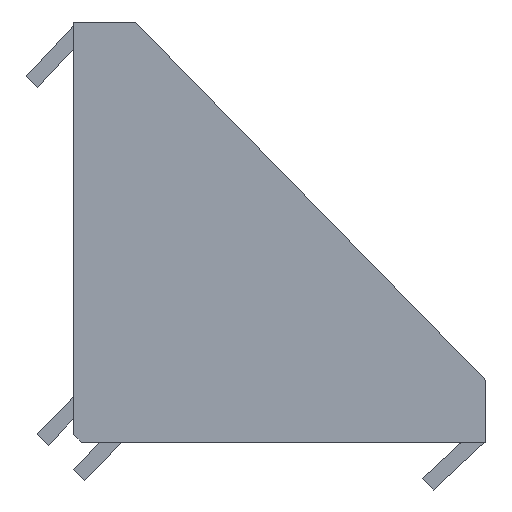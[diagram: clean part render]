
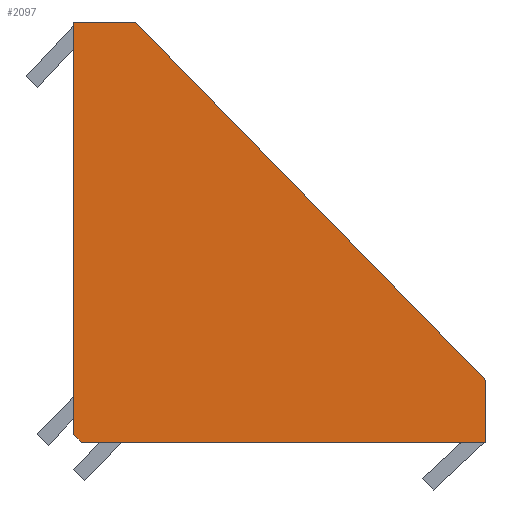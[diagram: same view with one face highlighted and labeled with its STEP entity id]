
A CAD part, left-side view. The second image highlights one B-rep face of the part: STEP entity #2097.
In plain terms, the highlighted planar face has unit normal (-1, 0, 0).
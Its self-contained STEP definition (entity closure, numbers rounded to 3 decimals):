
#61 = CARTESIAN_POINT ( 'NONE',  ( -34.65, -22.5, -18.248 ) ) ;
#181 = CARTESIAN_POINT ( 'NONE',  ( -34.65, 3.5, -22.233 ) ) ;
#267 = CARTESIAN_POINT ( 'NONE',  ( -34.65, -22.5, -22.233 ) ) ;
#371 = VERTEX_POINT ( 'NONE', #3192 ) ;
#381 = VERTEX_POINT ( 'NONE', #756 ) ;
#467 = CARTESIAN_POINT ( 'NONE',  ( -34.65, 4., -22.233 ) ) ;
#580 = LINE ( 'NONE', #3125, #1785 ) ;
#610 = LINE ( 'NONE', #467, #1132 ) ;
#669 = VECTOR ( 'NONE', #1097, 1000. ) ;
#726 = PLANE ( 'NONE',  #3258 ) ;
#756 = CARTESIAN_POINT ( 'NONE',  ( -34.65, 4., 4.767 ) ) ;
#835 = CARTESIAN_POINT ( 'NONE',  ( -34.65, 4., 4.767 ) ) ;
#949 = FACE_OUTER_BOUND ( 'NONE', #1389, .T. ) ;
#969 = VERTEX_POINT ( 'NONE', #181 ) ;
#975 = ORIENTED_EDGE ( 'NONE', *, *, #2985, .F. ) ;
#987 = CARTESIAN_POINT ( 'NONE',  ( -34.65, 4., -22.233 ) ) ;
#1097 = DIRECTION ( 'NONE',  ( 0., -1., 0. ) ) ;
#1132 = VECTOR ( 'NONE', #2025, 1000. ) ;
#1227 = VECTOR ( 'NONE', #2028, 1000. ) ;
#1239 = DIRECTION ( 'NONE',  ( 1., 0., 0. ) ) ;
#1389 = EDGE_LOOP ( 'NONE', ( #2008, #3219, #2706, #975, #1510, #1554 ) ) ;
#1423 = VERTEX_POINT ( 'NONE', #267 ) ;
#1510 = ORIENTED_EDGE ( 'NONE', *, *, #2217, .T. ) ;
#1532 = DIRECTION ( 'NONE',  ( 0., -0.707, -0.707 ) ) ;
#1554 = ORIENTED_EDGE ( 'NONE', *, *, #1943, .F. ) ;
#1762 = CARTESIAN_POINT ( 'NONE',  ( -34.65, 0., 4.767 ) ) ;
#1772 = VECTOR ( 'NONE', #1880, 1000. ) ;
#1785 = VECTOR ( 'NONE', #1532, 1000. ) ;
#1879 = VECTOR ( 'NONE', #2327, 1000. ) ;
#1880 = DIRECTION ( 'NONE',  ( 0., 0., -1. ) ) ;
#1943 = EDGE_CURVE ( 'NONE', #381, #3148, #2146, .T. ) ;
#2008 = ORIENTED_EDGE ( 'NONE', *, *, #3159, .F. ) ;
#2025 = DIRECTION ( 'NONE',  ( 0., -1., 0. ) ) ;
#2028 = DIRECTION ( 'NONE',  ( 0., 0.699, 0.715 ) ) ;
#2097 = ADVANCED_FACE ( 'NONE', ( #949 ), #726, .F. ) ;
#2146 = LINE ( 'NONE', #835, #669 ) ;
#2217 = EDGE_CURVE ( 'NONE', #2414, #3148, #3236, .T. ) ;
#2327 = DIRECTION ( 'NONE',  ( 0., 0., 1. ) ) ;
#2414 = VERTEX_POINT ( 'NONE', #2909 ) ;
#2477 = LINE ( 'NONE', #61, #1772 ) ;
#2706 = ORIENTED_EDGE ( 'NONE', *, *, #2763, .T. ) ;
#2763 = EDGE_CURVE ( 'NONE', #969, #1423, #610, .T. ) ;
#2839 = CARTESIAN_POINT ( 'NONE',  ( -34.65, 0., 4.767 ) ) ;
#2909 = CARTESIAN_POINT ( 'NONE',  ( -34.65, -22.5, -18.248 ) ) ;
#2985 = EDGE_CURVE ( 'NONE', #2414, #1423, #2477, .T. ) ;
#3072 = DIRECTION ( 'NONE',  ( 0., 0., -1. ) ) ;
#3115 = CARTESIAN_POINT ( 'NONE',  ( -34.65, 4., -22.233 ) ) ;
#3125 = CARTESIAN_POINT ( 'NONE',  ( -34.65, 4., -21.733 ) ) ;
#3148 = VERTEX_POINT ( 'NONE', #2839 ) ;
#3159 = EDGE_CURVE ( 'NONE', #371, #381, #3261, .T. ) ;
#3181 = EDGE_CURVE ( 'NONE', #371, #969, #580, .T. ) ;
#3192 = CARTESIAN_POINT ( 'NONE',  ( -34.65, 4., -21.733 ) ) ;
#3219 = ORIENTED_EDGE ( 'NONE', *, *, #3181, .T. ) ;
#3236 = LINE ( 'NONE', #1762, #1227 ) ;
#3258 = AXIS2_PLACEMENT_3D ( 'NONE', #987, #1239, #3072 ) ;
#3261 = LINE ( 'NONE', #3115, #1879 ) ;
